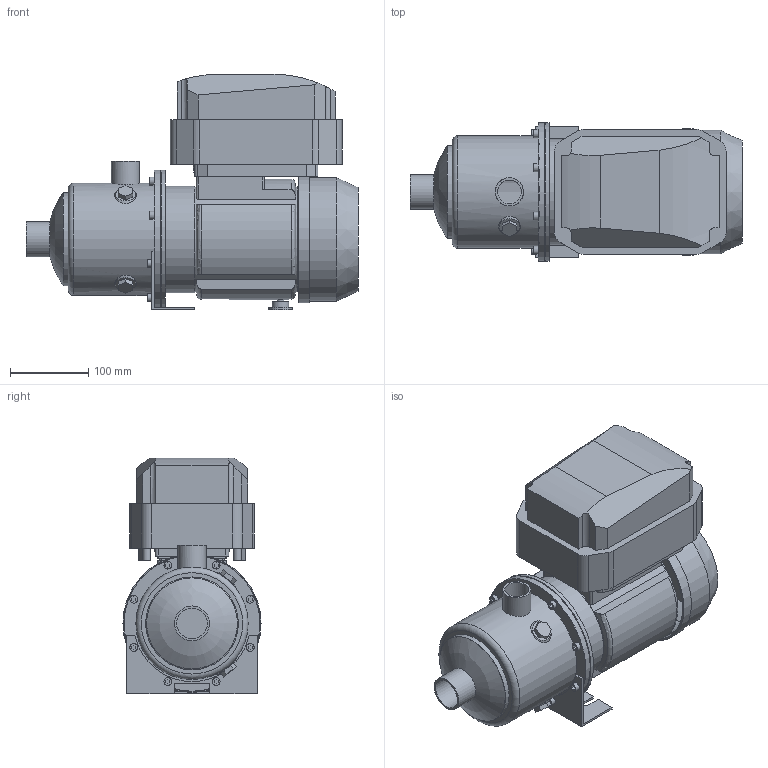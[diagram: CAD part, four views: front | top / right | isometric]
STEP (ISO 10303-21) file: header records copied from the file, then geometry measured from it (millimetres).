
FILE_DESCRIPTION(/* description */ ('Unknown'),/* implementation_level */ '2;1');
FILE_NAME(/* name */ 'MH 5 [4] T6 IE3 DTm',/* time_stamp */ '2026-07-10T15:14:30+02:00',/* author */ ('Unknown'),/* organization */ ('Unknown'),/* preprocessor_version */ 'ST-DEVELOPER v20',/* originating_system */ 'Solid Edge',/* authorisation */ 'Unknown');
FILE_SCHEMA (('AUTOMOTIVE_DESIGN {1 0 10303 214 3 1 1}'));
Length unit declared in the file: millimetre
Products named in the file (9): MH 5 [4] T6 IE3 DTm; Flangia motore Tonda M80; Corpo MH 3-5 [4]; Motore MEC 80 - T - VFD; carcassa MEC 80; Copriventola MEC 80; VFD sempl; Piedino MEC 80 int.90; Staffa 3-5-9 int.90
Assembly tree (8 placements, depth 3):
  MH 5 [4] T6 IE3 DTm
    Flangia motore Tonda M80
    Corpo MH 3-5 [4]
    Motore MEC 80 - T - VFD
      carcassa MEC 80
      Copriventola MEC 80
      VFD sempl
    Piedino MEC 80 int.90
    Staffa 3-5-9 int.90
Bounding box: 424.1 x 176.5 x 301 mm (x, y, z)
Volume: 5423658.7 mm3; surface area: 669789 mm2
Topology: 7 solids, 7 shells, 300 faces, 726 edges, 487 vertices
Faces by surface type: plane 196, cylinder 76, cone 17, torus 9, sphere 2
Full cylindrical faces by diameter (mm): 7 x4, 10 x9, 21 x1, 30 x1, 30.291 x1, 36 x1, 38.952 x1, 44.5 x1, 116.1 x1, 118.5 x1, 125 x1, 130 x3, 134 x1, 136 x1, 141.1 x1, 143.5 x1, 153 x1, 157 x1, 158 x1, 162 x1, 173.5 x1, 174.1 x1, 176.5 x2
Entity records: 9757 total; most frequent: CARTESIAN_POINT 1738, DIRECTION 1404, ORIENTED_EDGE 1302, EDGE_CURVE 651, AXIS2_PLACEMENT_3D 488, VERTEX_POINT 462, LINE 428, VECTOR 428
